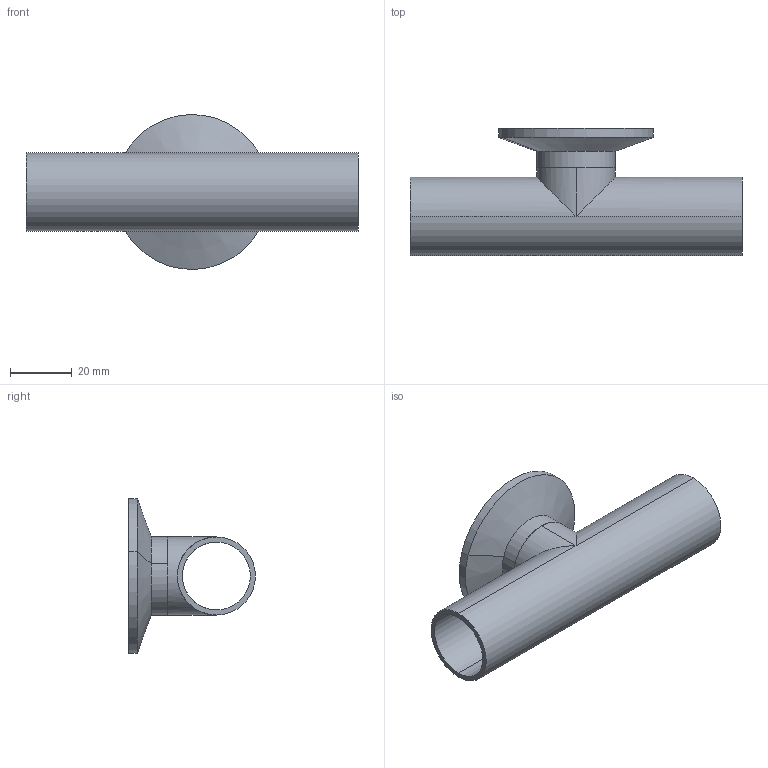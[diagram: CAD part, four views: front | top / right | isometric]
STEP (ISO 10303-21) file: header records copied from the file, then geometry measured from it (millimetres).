
FILE_DESCRIPTION (( 'STEP AP203' ), '1' );
FILE_NAME ('E7WWCS1.0.STEP', '2018-05-02T18:40:35', ( 'vneprd' ), ( 'Microsoft' ), 'SwSTEP 2.0', 'SolidWorks 2014', '' );
FILE_SCHEMA (( 'CONFIG_CONTROL_DESIGN' ));
Length unit declared in the file: inch
Products named in the file (3): E7WWCS1.0; V7WS1.0; EG2CS1.0
Assembly tree (2 placements, depth 2):
  E7WWCS1.0
    V7WS1.0
    EG2CS1.0
Bounding box: 107.95 x 41.27 x 50.37 mm (x, y, z)
Volume: 21871.6 mm3; surface area: 21785.5 mm2
Topology: 2 solids, 2 shells, 30 faces, 62 edges, 36 vertices
Faces by surface type: cylinder 16, plane 6, torus 6, cone 2
Entity records: 1119 total; most frequent: DIRECTION 166, CARTESIAN_POINT 145, ORIENTED_EDGE 124, AXIS2_PLACEMENT_3D 73, EDGE_CURVE 62, CIRCLE 38, EDGE_LOOP 36, VERTEX_POINT 36
